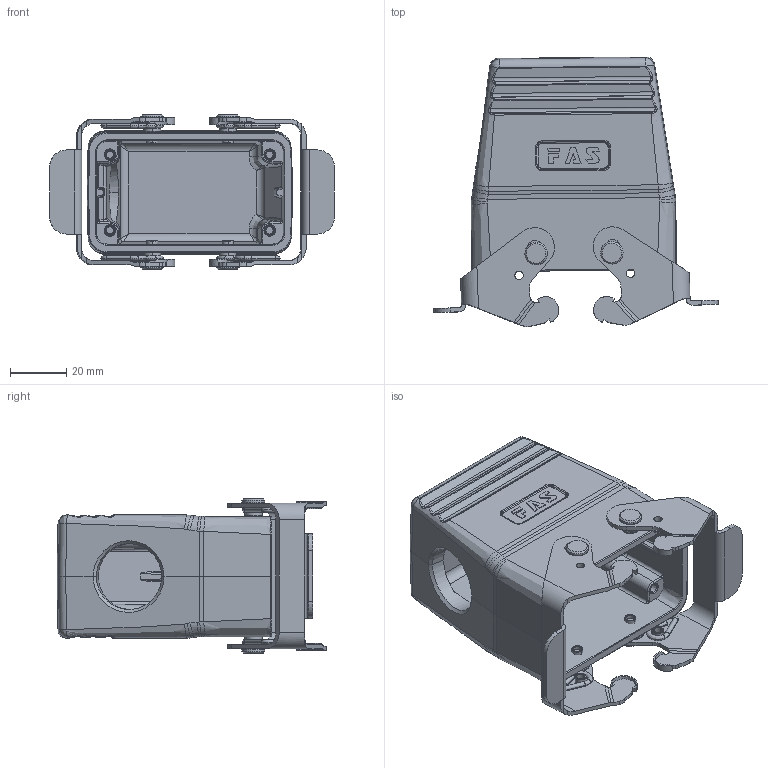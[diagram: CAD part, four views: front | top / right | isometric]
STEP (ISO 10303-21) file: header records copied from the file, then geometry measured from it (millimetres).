
FILE_DESCRIPTION (( 'STEP AP203' ), '1' );
FILE_NAME ('H10B-TBFH.STEP', '2019-11-01T05:23:47', ( '' ), ( '' ), 'SwSTEP 2.0', 'SolidWorks 2016', '' );
FILE_SCHEMA (( 'CONFIG_CONTROL_DESIGN' ));
Length unit declared in the file: millimetre
Products named in the file (6): jinshushuangkou; 24bcaixinshuangkou; maoding; tanhuang; H10B-TBFH; h10b-sbk-h_23010-4
Assembly tree (8 placements, depth 3):
  H10B-TBFH
    jinshushuangkou  x2
      24bcaixinshuangkou
      tanhuang
      maoding
    h10b-sbk-h_23010-4
Bounding box: 101.6 x 96.29 x 55 mm (x, y, z)
Volume: 82045.9 mm3; surface area: 47206.8 mm2
Topology: 11 solids, 11 shells, 828 faces, 2035 edges, 1256 vertices
Faces by surface type: cylinder 309, plane 251, bspline 222, cone 46
Entity records: 29842 total; most frequent: CARTESIAN_POINT 16077, ORIENTED_EDGE 3028, DIRECTION 2352, EDGE_CURVE 1514, VERTEX_POINT 930, AXIS2_PLACEMENT_3D 851, EDGE_LOOP 654, VECTOR 650
